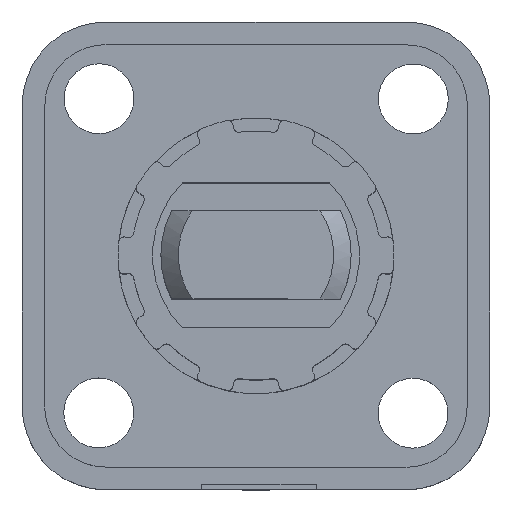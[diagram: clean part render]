
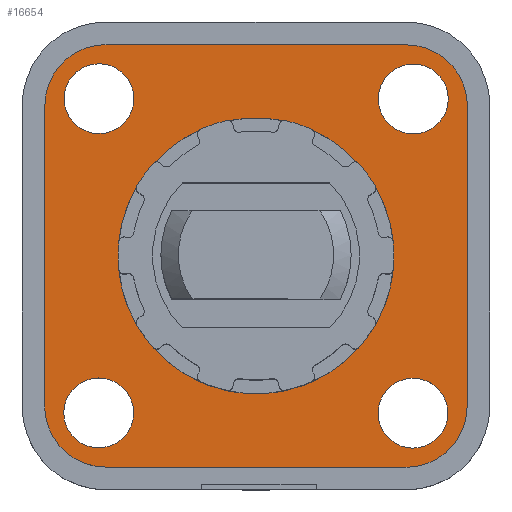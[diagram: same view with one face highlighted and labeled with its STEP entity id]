
A CAD part, top view. The second image highlights one B-rep face of the part: STEP entity #16654.
In plain terms, the highlighted planar face has unit normal (0, 0, 1).
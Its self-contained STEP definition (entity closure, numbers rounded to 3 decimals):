
#5215=CARTESIAN_POINT('',(-8.992,9.008,4.6));
#5216=DIRECTION('',(0.,0.,-1.));
#5217=DIRECTION('',(1.,-0.001,0.));
#5218=AXIS2_PLACEMENT_3D('',#5215,#5216,#5217);
#5220=CARTESIAN_POINT('',(-8.992,9.008,4.6));
#5221=DIRECTION('',(0.,0.,-1.));
#5222=DIRECTION('',(-1.,0.001,0.));
#5223=AXIS2_PLACEMENT_3D('',#5220,#5221,#5222);
#5225=CARTESIAN_POINT('',(9.008,8.992,4.6));
#5226=DIRECTION('',(0.,0.,-1.));
#5227=DIRECTION('',(1.,-0.001,0.));
#5228=AXIS2_PLACEMENT_3D('',#5225,#5226,#5227);
#5230=CARTESIAN_POINT('',(9.008,8.992,4.6));
#5231=DIRECTION('',(0.,0.,-1.));
#5232=DIRECTION('',(-1.,0.001,0.));
#5233=AXIS2_PLACEMENT_3D('',#5230,#5231,#5232);
#5235=CARTESIAN_POINT('',(8.992,-9.008,4.6));
#5236=DIRECTION('',(0.,0.,-1.));
#5237=DIRECTION('',(1.,-0.001,0.));
#5238=AXIS2_PLACEMENT_3D('',#5235,#5236,#5237);
#5240=CARTESIAN_POINT('',(8.992,-9.008,4.6));
#5241=DIRECTION('',(0.,0.,-1.));
#5242=DIRECTION('',(-1.,0.001,0.));
#5243=AXIS2_PLACEMENT_3D('',#5240,#5241,#5242);
#5245=CARTESIAN_POINT('',(-9.008,-8.992,4.6));
#5246=DIRECTION('',(0.,0.,-1.));
#5247=DIRECTION('',(1.,-0.001,0.));
#5248=AXIS2_PLACEMENT_3D('',#5245,#5246,#5247);
#5250=CARTESIAN_POINT('',(-9.008,-8.992,4.6));
#5251=DIRECTION('',(0.,0.,-1.));
#5252=DIRECTION('',(-1.,0.001,0.));
#5253=AXIS2_PLACEMENT_3D('',#5250,#5251,#5252);
#5255=CARTESIAN_POINT('',(-8.608,-8.592,4.6));
#5256=DIRECTION('',(0.,0.,1.));
#5257=DIRECTION('',(-1.,0.001,0.));
#5258=AXIS2_PLACEMENT_3D('',#5255,#5256,#5257);
#5260=DIRECTION('',(-0.001,-1.,0.));
#5261=VECTOR('',#5260,17.2);
#5262=CARTESIAN_POINT('',(-12.092,8.611,4.6));
#5263=LINE('',#5262,#5261);
#5264=CARTESIAN_POINT('',(-8.592,8.608,4.6));
#5265=DIRECTION('',(0.,0.,1.));
#5266=DIRECTION('',(0.001,1.,0.));
#5267=AXIS2_PLACEMENT_3D('',#5264,#5265,#5266);
#5269=DIRECTION('',(-1.,0.001,0.));
#5270=VECTOR('',#5269,17.2);
#5271=CARTESIAN_POINT('',(8.611,12.092,4.6));
#5272=LINE('',#5271,#5270);
#5273=CARTESIAN_POINT('',(8.608,8.592,4.6));
#5274=DIRECTION('',(0.,0.,1.));
#5275=DIRECTION('',(1.,-0.001,0.));
#5276=AXIS2_PLACEMENT_3D('',#5273,#5274,#5275);
#5278=DIRECTION('',(0.001,1.,0.));
#5279=VECTOR('',#5278,17.2);
#5280=CARTESIAN_POINT('',(12.092,-8.611,4.6));
#5281=LINE('',#5280,#5279);
#5282=CARTESIAN_POINT('',(8.592,-8.608,4.6));
#5283=DIRECTION('',(0.,0.,1.));
#5284=DIRECTION('',(-0.001,-1.,0.));
#5285=AXIS2_PLACEMENT_3D('',#5282,#5283,#5284);
#5287=DIRECTION('',(1.,-0.001,0.));
#5288=VECTOR('',#5287,17.2);
#5289=CARTESIAN_POINT('',(-8.611,-12.092,4.6));
#5290=LINE('',#5289,#5288);
#5507=CARTESIAN_POINT('',(0.,0.,4.6));
#5508=DIRECTION('',(0.,0.,1.));
#5509=DIRECTION('',(-1.,0.,0.));
#5510=AXIS2_PLACEMENT_3D('',#5507,#5508,#5509);
#5560=CARTESIAN_POINT('',(0.,0.,4.6));
#5561=DIRECTION('',(0.,0.,1.));
#5562=DIRECTION('',(1.,0.,0.));
#5563=AXIS2_PLACEMENT_3D('',#5560,#5561,#5562);
#9085=CARTESIAN_POINT('',(-12.108,-8.589,4.6));
#9086=CARTESIAN_POINT('',(-8.611,-12.092,4.6));
#9087=VERTEX_POINT('',#9085);
#9088=VERTEX_POINT('',#9086);
#9089=CARTESIAN_POINT('',(8.589,-12.108,4.6));
#9090=VERTEX_POINT('',#9089);
#9091=CARTESIAN_POINT('',(12.092,-8.611,4.6));
#9092=VERTEX_POINT('',#9091);
#9093=CARTESIAN_POINT('',(12.108,8.589,4.6));
#9094=VERTEX_POINT('',#9093);
#9095=CARTESIAN_POINT('',(8.611,12.092,4.6));
#9096=VERTEX_POINT('',#9095);
#9097=CARTESIAN_POINT('',(-8.589,12.108,4.6));
#9098=VERTEX_POINT('',#9097);
#9099=CARTESIAN_POINT('',(-12.092,8.611,4.6));
#9100=VERTEX_POINT('',#9099);
#9117=CARTESIAN_POINT('',(-6.992,9.006,4.6));
#9118=CARTESIAN_POINT('',(-10.992,9.01,4.6));
#9119=VERTEX_POINT('',#9117);
#9120=VERTEX_POINT('',#9118);
#9121=CARTESIAN_POINT('',(11.008,8.99,4.6));
#9122=CARTESIAN_POINT('',(7.008,8.994,4.6));
#9123=VERTEX_POINT('',#9121);
#9124=VERTEX_POINT('',#9122);
#9125=CARTESIAN_POINT('',(10.992,-9.01,4.6));
#9126=CARTESIAN_POINT('',(6.992,-9.006,4.6));
#9127=VERTEX_POINT('',#9125);
#9128=VERTEX_POINT('',#9126);
#9129=CARTESIAN_POINT('',(-7.008,-8.994,4.6));
#9130=CARTESIAN_POINT('',(-11.008,-8.99,4.6));
#9131=VERTEX_POINT('',#9129);
#9132=VERTEX_POINT('',#9130);
#9149=CARTESIAN_POINT('',(-7.9,0.,4.6));
#9150=CARTESIAN_POINT('',(7.9,0.,4.6));
#9151=VERTEX_POINT('',#9149);
#9152=VERTEX_POINT('',#9150);
#16609=CARTESIAN_POINT('',(0.,0.,4.6));
#16610=DIRECTION('',(0.,0.,1.));
#16611=DIRECTION('',(1.,-0.001,0.));
#16612=AXIS2_PLACEMENT_3D('',#16609,#16610,#16611);
#16613=PLANE('',#16612);
#16614=ORIENTED_EDGE('',*,*,#16505,.F.);
#16615=ORIENTED_EDGE('',*,*,#16520,.F.);
#16616=ORIENTED_EDGE('',*,*,#16534,.F.);
#16617=ORIENTED_EDGE('',*,*,#16548,.F.);
#16618=ORIENTED_EDGE('',*,*,#16562,.F.);
#16619=ORIENTED_EDGE('',*,*,#16576,.F.);
#16620=ORIENTED_EDGE('',*,*,#16590,.F.);
#16621=ORIENTED_EDGE('',*,*,#16603,.F.);
#16622=EDGE_LOOP('',(#16614,#16615,#16616,#16617,#16618,#16619,#16620,#16621));
#16623=FACE_OUTER_BOUND('',#16622,.F.);
#16625=ORIENTED_EDGE('',*,*,#16624,.F.);
#16627=ORIENTED_EDGE('',*,*,#16626,.F.);
#16628=EDGE_LOOP('',(#16625,#16627));
#16629=FACE_BOUND('',#16628,.F.);
#16631=ORIENTED_EDGE('',*,*,#16630,.F.);
#16633=ORIENTED_EDGE('',*,*,#16632,.F.);
#16634=EDGE_LOOP('',(#16631,#16633));
#16635=FACE_BOUND('',#16634,.F.);
#16637=ORIENTED_EDGE('',*,*,#16636,.F.);
#16639=ORIENTED_EDGE('',*,*,#16638,.F.);
#16640=EDGE_LOOP('',(#16637,#16639));
#16641=FACE_BOUND('',#16640,.F.);
#16643=ORIENTED_EDGE('',*,*,#16642,.F.);
#16645=ORIENTED_EDGE('',*,*,#16644,.F.);
#16646=EDGE_LOOP('',(#16643,#16645));
#16647=FACE_BOUND('',#16646,.F.);
#16649=ORIENTED_EDGE('',*,*,#16648,.T.);
#16651=ORIENTED_EDGE('',*,*,#16650,.T.);
#16652=EDGE_LOOP('',(#16649,#16651));
#16653=FACE_BOUND('',#16652,.F.);
#16654=ADVANCED_FACE('',(#16623,#16629,#16635,#16641,#16647,#16653),#16613,.T.);
#5219=CIRCLE('',#5218,2.);
#5224=CIRCLE('',#5223,2.);
#5229=CIRCLE('',#5228,2.);
#5234=CIRCLE('',#5233,2.);
#5239=CIRCLE('',#5238,2.);
#5244=CIRCLE('',#5243,2.);
#5249=CIRCLE('',#5248,2.);
#5254=CIRCLE('',#5253,2.);
#5259=CIRCLE('',#5258,3.5);
#5268=CIRCLE('',#5267,3.5);
#5277=CIRCLE('',#5276,3.5);
#5286=CIRCLE('',#5285,3.5);
#5511=CIRCLE('',#5510,7.9);
#5564=CIRCLE('',#5563,7.9);
#16505=EDGE_CURVE('',#9087,#9088,#5259,.T.);
#16520=EDGE_CURVE('',#9100,#9087,#5263,.T.);
#16534=EDGE_CURVE('',#9098,#9100,#5268,.T.);
#16548=EDGE_CURVE('',#9096,#9098,#5272,.T.);
#16562=EDGE_CURVE('',#9094,#9096,#5277,.T.);
#16576=EDGE_CURVE('',#9092,#9094,#5281,.T.);
#16590=EDGE_CURVE('',#9090,#9092,#5286,.T.);
#16603=EDGE_CURVE('',#9088,#9090,#5290,.T.);
#16624=EDGE_CURVE('',#9123,#9124,#5229,.T.);
#16626=EDGE_CURVE('',#9124,#9123,#5234,.T.);
#16630=EDGE_CURVE('',#9127,#9128,#5239,.T.);
#16632=EDGE_CURVE('',#9128,#9127,#5244,.T.);
#16636=EDGE_CURVE('',#9131,#9132,#5249,.T.);
#16638=EDGE_CURVE('',#9132,#9131,#5254,.T.);
#16642=EDGE_CURVE('',#9119,#9120,#5219,.T.);
#16644=EDGE_CURVE('',#9120,#9119,#5224,.T.);
#16648=EDGE_CURVE('',#9151,#9152,#5511,.T.);
#16650=EDGE_CURVE('',#9152,#9151,#5564,.T.);
